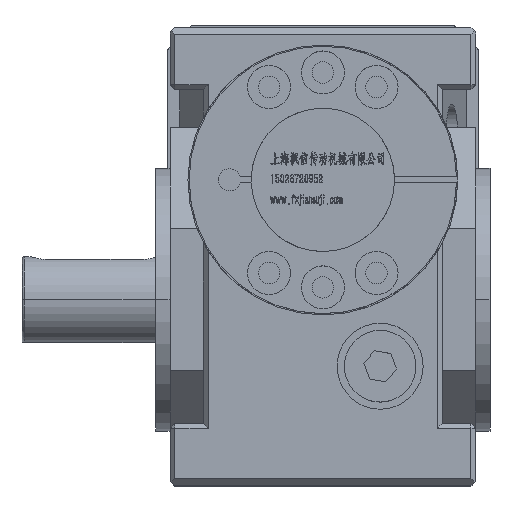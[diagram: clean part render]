
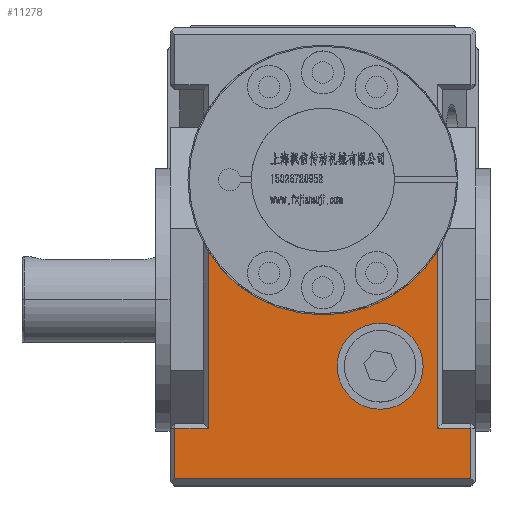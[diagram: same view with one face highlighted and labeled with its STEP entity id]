
A CAD part, top view. The second image highlights one B-rep face of the part: STEP entity #11278.
In plain terms, the highlighted planar face has unit normal (0, 0, 1).
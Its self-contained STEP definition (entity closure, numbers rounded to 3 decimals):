
#549 = CARTESIAN_POINT ( 'NONE',  ( 12., -14., 40. ) ) ;
#1435 = DIRECTION ( 'NONE',  ( 0., -1., 0. ) ) ;
#3183 = CARTESIAN_POINT ( 'NONE',  ( -24., -27., 40. ) ) ;
#5730 = AXIS2_PLACEMENT_3D ( 'NONE', #39701, #24085, #80520 ) ;
#6184 = EDGE_CURVE ( 'NONE', #81225, #55765, #68588, .T. ) ;
#8095 = CARTESIAN_POINT ( 'NONE',  ( 31., -37.5, 40. ) ) ;
#11278 = ADVANCED_FACE ( 'NONE', ( #64761, #56724 ), #41659, .F. ) ;
#12599 = ORIENTED_EDGE ( 'NONE', *, *, #83711, .T. ) ;
#14525 = VECTOR ( 'NONE', #41676, 1000. ) ;
#16757 = DIRECTION ( 'NONE',  ( -1., 0., 0. ) ) ;
#16976 = DIRECTION ( 'NONE',  ( 0., 1., 0. ) ) ;
#17993 = CARTESIAN_POINT ( 'NONE',  ( 32., -37.5, 40. ) ) ;
#21437 = VERTEX_POINT ( 'NONE', #106351 ) ;
#23384 = AXIS2_PLACEMENT_3D ( 'NONE', #549, #50574, #89792 ) ;
#23927 = ORIENTED_EDGE ( 'NONE', *, *, #6184, .F. ) ;
#24085 = DIRECTION ( 'NONE',  ( 0., 0., 1. ) ) ;
#25200 = ORIENTED_EDGE ( 'NONE', *, *, #95795, .T. ) ;
#25403 = CARTESIAN_POINT ( 'NONE',  ( 24., 11.845, 40. ) ) ;
#27511 = EDGE_CURVE ( 'NONE', #72443, #30260, #101837, .T. ) ;
#28455 = VERTEX_POINT ( 'NONE', #73875 ) ;
#30086 = EDGE_CURVE ( 'NONE', #21437, #81383, #55950, .T. ) ;
#30260 = VERTEX_POINT ( 'NONE', #56215 ) ;
#31251 = CARTESIAN_POINT ( 'NONE',  ( -31., 57., 40. ) ) ;
#31456 = CIRCLE ( 'NONE', #5730, 9. ) ;
#33631 = DIRECTION ( 'NONE',  ( 0., 0., 1. ) ) ;
#36333 = CARTESIAN_POINT ( 'NONE',  ( 31., -26., 40. ) ) ;
#37713 = ORIENTED_EDGE ( 'NONE', *, *, #27511, .T. ) ;
#37917 = DIRECTION ( 'NONE',  ( 0., 1., 0. ) ) ;
#38607 = VECTOR ( 'NONE', #16757, 1000. ) ;
#39701 = CARTESIAN_POINT ( 'NONE',  ( 12., -14., 40. ) ) ;
#40084 = LINE ( 'NONE', #25403, #105202 ) ;
#41659 = PLANE ( 'NONE',  #46003 ) ;
#41676 = DIRECTION ( 'NONE',  ( 1., 0., 0. ) ) ;
#43257 = ORIENTED_EDGE ( 'NONE', *, *, #45362, .T. ) ;
#45362 = EDGE_CURVE ( 'NONE', #81225, #85649, #105439, .T. ) ;
#46003 = AXIS2_PLACEMENT_3D ( 'NONE', #81422, #50257, #65824 ) ;
#46454 = DIRECTION ( 'NONE',  ( 0., -1., 0. ) ) ;
#46852 = CARTESIAN_POINT ( 'NONE',  ( -31., -37.5, 40. ) ) ;
#47030 = VERTEX_POINT ( 'NONE', #51995 ) ;
#49759 = LINE ( 'NONE', #17993, #14525 ) ;
#50257 = DIRECTION ( 'NONE',  ( 0., 0., -1. ) ) ;
#50574 = DIRECTION ( 'NONE',  ( 0., 0., 1. ) ) ;
#50621 = LINE ( 'NONE', #90368, #38607 ) ;
#51995 = CARTESIAN_POINT ( 'NONE',  ( 24., -27., 40. ) ) ;
#55541 = CARTESIAN_POINT ( 'NONE',  ( -24., -26., 40. ) ) ;
#55765 = VERTEX_POINT ( 'NONE', #57645 ) ;
#55950 = LINE ( 'NONE', #31251, #63205 ) ;
#56215 = CARTESIAN_POINT ( 'NONE',  ( 31., -27., 40. ) ) ;
#56724 = FACE_BOUND ( 'NONE', #60583, .T. ) ;
#57645 = CARTESIAN_POINT ( 'NONE',  ( 24., 10.098, 40. ) ) ;
#60583 = EDGE_LOOP ( 'NONE', ( #63125, #105435 ) ) ;
#63125 = ORIENTED_EDGE ( 'NONE', *, *, #75933, .F. ) ;
#63198 = DIRECTION ( 'NONE',  ( 0., 1., 0. ) ) ;
#63205 = VECTOR ( 'NONE', #1435, 1000. ) ;
#64566 = VECTOR ( 'NONE', #105634, 1000. ) ;
#64761 = FACE_OUTER_BOUND ( 'NONE', #71697, .T. ) ;
#65824 = DIRECTION ( 'NONE',  ( -1., 0., 0. ) ) ;
#68588 = CIRCLE ( 'NONE', #102814, 28.25 ) ;
#69732 = CIRCLE ( 'NONE', #23384, 9. ) ;
#71697 = EDGE_LOOP ( 'NONE', ( #78178, #80362, #37713, #25200, #103992, #23927, #43257, #12599 ) ) ;
#72397 = CARTESIAN_POINT ( 'NONE',  ( -32., -27., 40. ) ) ;
#72443 = VERTEX_POINT ( 'NONE', #8095 ) ;
#73875 = CARTESIAN_POINT ( 'NONE',  ( 21., -14., 40. ) ) ;
#73966 = LINE ( 'NONE', #72397, #64566 ) ;
#75933 = EDGE_CURVE ( 'NONE', #28455, #92229, #31456, .T. ) ;
#76005 = CARTESIAN_POINT ( 'NONE',  ( -24., 10.098, 40. ) ) ;
#76288 = EDGE_CURVE ( 'NONE', #47030, #55765, #40084, .T. ) ;
#77554 = VECTOR ( 'NONE', #37917, 1000. ) ;
#78178 = ORIENTED_EDGE ( 'NONE', *, *, #30086, .T. ) ;
#80362 = ORIENTED_EDGE ( 'NONE', *, *, #95610, .T. ) ;
#80520 = DIRECTION ( 'NONE',  ( 1., 0., 0. ) ) ;
#80619 = EDGE_CURVE ( 'NONE', #92229, #28455, #69732, .T. ) ;
#81225 = VERTEX_POINT ( 'NONE', #76005 ) ;
#81383 = VERTEX_POINT ( 'NONE', #46852 ) ;
#81422 = CARTESIAN_POINT ( 'NONE',  ( 32., 57., 40. ) ) ;
#83711 = EDGE_CURVE ( 'NONE', #85649, #21437, #73966, .T. ) ;
#83981 = VECTOR ( 'NONE', #46454, 1000. ) ;
#85649 = VERTEX_POINT ( 'NONE', #3183 ) ;
#87678 = CARTESIAN_POINT ( 'NONE',  ( 3., -14., 40. ) ) ;
#89792 = DIRECTION ( 'NONE',  ( 1., 0., 0. ) ) ;
#90368 = CARTESIAN_POINT ( 'NONE',  ( 32., -27., 40. ) ) ;
#92229 = VERTEX_POINT ( 'NONE', #87678 ) ;
#95610 = EDGE_CURVE ( 'NONE', #81383, #72443, #49759, .T. ) ;
#95795 = EDGE_CURVE ( 'NONE', #30260, #47030, #50621, .T. ) ;
#99158 = CARTESIAN_POINT ( 'NONE',  ( 0., 25., 40. ) ) ;
#101837 = LINE ( 'NONE', #36333, #77554 ) ;
#102814 = AXIS2_PLACEMENT_3D ( 'NONE', #99158, #33631, #16976 ) ;
#103992 = ORIENTED_EDGE ( 'NONE', *, *, #76288, .T. ) ;
#105202 = VECTOR ( 'NONE', #63198, 1000. ) ;
#105435 = ORIENTED_EDGE ( 'NONE', *, *, #80619, .F. ) ;
#105439 = LINE ( 'NONE', #55541, #83981 ) ;
#105634 = DIRECTION ( 'NONE',  ( -1., 0., 0. ) ) ;
#106351 = CARTESIAN_POINT ( 'NONE',  ( -31., -27., 40. ) ) ;
